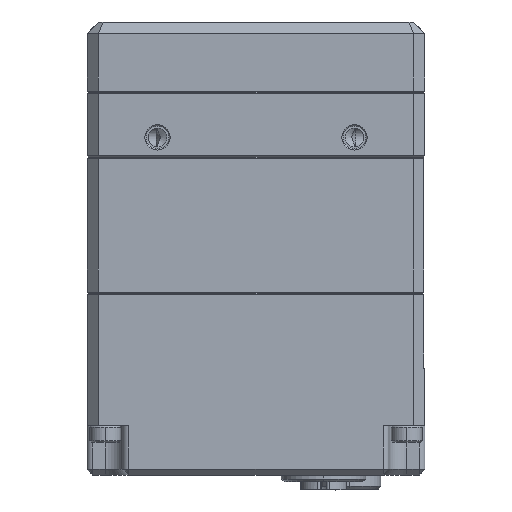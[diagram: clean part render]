
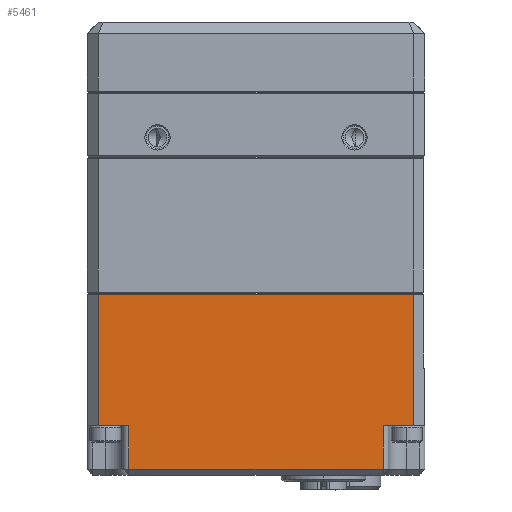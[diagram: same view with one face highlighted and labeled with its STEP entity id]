
A CAD part, left-side view. The second image highlights one B-rep face of the part: STEP entity #5461.
In plain terms, the highlighted planar face has unit normal (-1, 0, 0).
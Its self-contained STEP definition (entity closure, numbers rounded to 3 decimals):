
#83 = LINE ( 'NONE', #22195, #23884 ) ;
#198 = VECTOR ( 'NONE', #25421, 1000. ) ;
#245 = EDGE_CURVE ( 'NONE', #6160, #19974, #9961, .T. ) ;
#618 = AXIS2_PLACEMENT_3D ( 'NONE', #22510, #927, #8548 ) ;
#927 = DIRECTION ( 'NONE',  ( 1., 0., 0. ) ) ;
#1027 = VECTOR ( 'NONE', #1444, 1000. ) ;
#1041 = CARTESIAN_POINT ( 'NONE',  ( -30., 22.6, -67.2 ) ) ;
#1444 = DIRECTION ( 'NONE',  ( 0., 0., -1. ) ) ;
#1452 = ORIENTED_EDGE ( 'NONE', *, *, #16885, .T. ) ;
#2099 = CARTESIAN_POINT ( 'NONE',  ( -30., -30., -67.2 ) ) ;
#2688 = CARTESIAN_POINT ( 'NONE',  ( -30., -28., -67.2 ) ) ;
#2892 = PLANE ( 'NONE',  #618 ) ;
#3414 = DIRECTION ( 'NONE',  ( 0., 0., 1. ) ) ;
#4309 = LINE ( 'NONE', #2099, #10729 ) ;
#4589 = ORIENTED_EDGE ( 'NONE', *, *, #11512, .T. ) ;
#5461 = ADVANCED_FACE ( 'NONE', ( #14565 ), #2892, .F. ) ;
#5917 = LINE ( 'NONE', #23437, #1027 ) ;
#6160 = VERTEX_POINT ( 'NONE', #2688 ) ;
#6381 = DIRECTION ( 'NONE',  ( 0., 0., 1. ) ) ;
#6899 = CARTESIAN_POINT ( 'NONE',  ( -30., 28., -43.7 ) ) ;
#7411 = CARTESIAN_POINT ( 'NONE',  ( -30., -22.6, -67.2 ) ) ;
#7644 = DIRECTION ( 'NONE',  ( 0., -1., 0. ) ) ;
#8398 = ORIENTED_EDGE ( 'NONE', *, *, #9288, .T. ) ;
#8548 = DIRECTION ( 'NONE',  ( 0., 0., -1. ) ) ;
#9288 = EDGE_CURVE ( 'NONE', #19974, #25300, #12318, .T. ) ;
#9341 = CARTESIAN_POINT ( 'NONE',  ( -30., 28., -67.2 ) ) ;
#9961 = LINE ( 'NONE', #15606, #21228 ) ;
#10235 = VERTEX_POINT ( 'NONE', #22648 ) ;
#10473 = EDGE_CURVE ( 'NONE', #6160, #23200, #4309, .T. ) ;
#10729 = VECTOR ( 'NONE', #17925, 1000. ) ;
#10846 = DIRECTION ( 'NONE',  ( 0., 0., -1. ) ) ;
#11260 = VERTEX_POINT ( 'NONE', #21500 ) ;
#11512 = EDGE_CURVE ( 'NONE', #17985, #10235, #5917, .T. ) ;
#11543 = ORIENTED_EDGE ( 'NONE', *, *, #12144, .T. ) ;
#12144 = EDGE_CURVE ( 'NONE', #25300, #20256, #18938, .T. ) ;
#12318 = LINE ( 'NONE', #17442, #198 ) ;
#13630 = VECTOR ( 'NONE', #15371, 1000. ) ;
#13666 = ORIENTED_EDGE ( 'NONE', *, *, #17620, .F. ) ;
#14565 = FACE_OUTER_BOUND ( 'NONE', #23819, .T. ) ;
#15371 = DIRECTION ( 'NONE',  ( 0., 1., 0. ) ) ;
#15606 = CARTESIAN_POINT ( 'NONE',  ( -30., -28., -43.7 ) ) ;
#15611 = ORIENTED_EDGE ( 'NONE', *, *, #10473, .F. ) ;
#15943 = VECTOR ( 'NONE', #7644, 1000. ) ;
#16885 = EDGE_CURVE ( 'NONE', #11260, #23200, #83, .T. ) ;
#17442 = CARTESIAN_POINT ( 'NONE',  ( -30., -30., -43.9 ) ) ;
#17620 = EDGE_CURVE ( 'NONE', #17985, #20256, #25412, .T. ) ;
#17638 = ORIENTED_EDGE ( 'NONE', *, *, #23654, .T. ) ;
#17925 = DIRECTION ( 'NONE',  ( 0., 1., 0. ) ) ;
#17985 = VERTEX_POINT ( 'NONE', #1041 ) ;
#18938 = LINE ( 'NONE', #6899, #24663 ) ;
#19974 = VERTEX_POINT ( 'NONE', #24099 ) ;
#20256 = VERTEX_POINT ( 'NONE', #9341 ) ;
#21227 = LINE ( 'NONE', #23061, #15943 ) ;
#21228 = VECTOR ( 'NONE', #3414, 1000. ) ;
#21359 = CARTESIAN_POINT ( 'NONE',  ( -30., 28., -43.9 ) ) ;
#21500 = CARTESIAN_POINT ( 'NONE',  ( -30., -22.6, -75. ) ) ;
#22195 = CARTESIAN_POINT ( 'NONE',  ( -30., -22.6, -43.7 ) ) ;
#22510 = CARTESIAN_POINT ( 'NONE',  ( -30., -30., -43.7 ) ) ;
#22648 = CARTESIAN_POINT ( 'NONE',  ( -30., 22.6, -75. ) ) ;
#23061 = CARTESIAN_POINT ( 'NONE',  ( -30., -22.6, -75. ) ) ;
#23182 = CARTESIAN_POINT ( 'NONE',  ( -30., 30., -67.2 ) ) ;
#23200 = VERTEX_POINT ( 'NONE', #7411 ) ;
#23437 = CARTESIAN_POINT ( 'NONE',  ( -30., 22.6, -43.7 ) ) ;
#23654 = EDGE_CURVE ( 'NONE', #10235, #11260, #21227, .T. ) ;
#23819 = EDGE_LOOP ( 'NONE', ( #25151, #8398, #11543, #13666, #4589, #17638, #1452, #15611 ) ) ;
#23884 = VECTOR ( 'NONE', #6381, 1000. ) ;
#24099 = CARTESIAN_POINT ( 'NONE',  ( -30., -28., -43.9 ) ) ;
#24663 = VECTOR ( 'NONE', #10846, 1000. ) ;
#25151 = ORIENTED_EDGE ( 'NONE', *, *, #245, .T. ) ;
#25300 = VERTEX_POINT ( 'NONE', #21359 ) ;
#25412 = LINE ( 'NONE', #23182, #13630 ) ;
#25421 = DIRECTION ( 'NONE',  ( 0., 1., 0. ) ) ;
